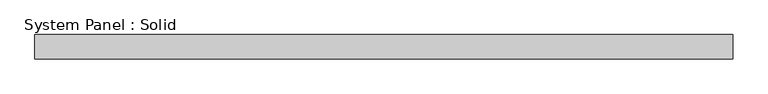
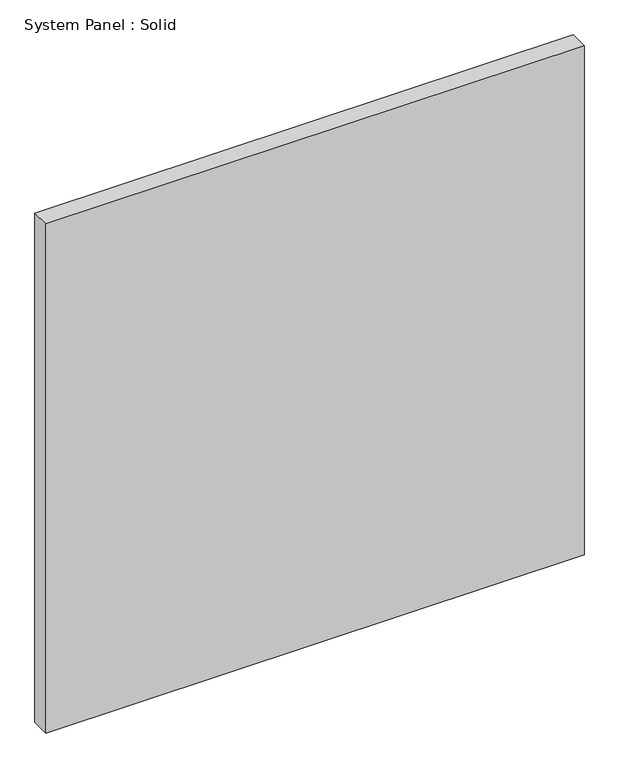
"""IFC4 building model written with IfcOpenShell, lengths in millimetres: plate geometry, System Panel : Solid."""

import ifcopenshell
import ifcopenshell.guid

model = None  # the IFC model being written
_history = None  # IfcOwnerHistory: only IFC2X3 demands one
_inside = {}  # id of a spatial element -> (the spatial element, [elements in it])
_under = {}  # id of a project, library or spatial element -> (it, [spatial elements below it])
_declared = {}  # id of a project -> (the project, [libraries it declares])
_typed = {}  # id of a type object -> (the type object, [elements of that type])
_made_of = {}  # id of a material, layer set ... -> (it, [elements and type objects made of it])


def new_model(schema):
    """Start an empty IFC model of exactly this schema.

    Asked for "IFC4X3", IfcOpenShell would pick the latest addendum, in which some entities
    have other attributes; the version numbers below select the first issue.
    IFC2X3 requires an IfcOwnerHistory on every rooted entity: one is made here for all.
    """
    global model, _history
    if schema == "IFC4X3":
        model = ifcopenshell.file(schema_version=(4, 3, 0, 0))
    else:
        model = ifcopenshell.file(schema=schema)
    _inside.clear()
    _under.clear()
    _declared.clear()
    _typed.clear()
    _made_of.clear()
    _history = None
    if model.schema == "IFC2X3":
        org = make("IfcOrganization", Name="unknown")
        user = make(
            "IfcPersonAndOrganization",
            ThePerson=make("IfcPerson", FamilyName="unknown"),
            TheOrganization=org,
        )
        app = make(
            "IfcApplication",
            ApplicationDeveloper=org,
            Version="unknown",
            ApplicationFullName="unknown",
            ApplicationIdentifier="unknown",
        )
        _history = make(
            "IfcOwnerHistory",
            OwningUser=user,
            OwningApplication=app,
            ChangeAction="ADDED",
            CreationDate=0,
        )
    return model


def make(cls, **values):
    """One entity of the class cls with the attributes given. An attribute that is None is left unset."""
    return model.create_entity(
        cls, **{name: value for name, value in values.items() if value is not None}
    )


def rooted(cls, **values):
    """An entity with a GlobalId (a new one), such as an element, a storey or a relation."""
    return make(cls, GlobalId=ifcopenshell.guid.new(), OwnerHistory=_history, **values)


def si_unit(unit_type, name, prefix=None):
    """IfcSIUnit, for example si_unit("LENGTHUNIT", "METRE", prefix="MILLI")."""
    return make("IfcSIUnit", UnitType=unit_type, Prefix=prefix, Name=name)


def assignment(units):
    """IfcUnitAssignment: the units of a project."""
    return None if units is None else make("IfcUnitAssignment", Units=units)


def point(xyz):
    """IfcCartesianPoint."""
    return None if xyz is None else make("IfcCartesianPoint", Coordinates=xyz)


def direction(xyz):
    """IfcDirection."""
    return None if xyz is None else make("IfcDirection", DirectionRatios=xyz)


def frame(location, z_axis=None, x_axis=None):
    """IfcAxis2Placement3D, a coordinate frame: its origin and axes. An axis left out is left unset."""
    return make(
        "IfcAxis2Placement3D",
        Location=point(location),
        Axis=direction(z_axis),
        RefDirection=direction(x_axis),
    )


def origin():
    """The frame at (0, 0, 0) with its axes left unset."""
    return frame((0.0, 0.0, 0.0))


def origin_with_axes():
    """The frame at (0, 0, 0) with the z axis (0, 0, 1) and the x axis (1, 0, 0) written out."""
    return frame((0.0, 0.0, 0.0), z_axis=(0.0, 0.0, 1.0), x_axis=(1.0, 0.0, 0.0))


def place(relative_to, where):
    """IfcLocalPlacement: puts the frame where relative to a parent placement (None: the world)."""
    return make(
        "IfcLocalPlacement", PlacementRelTo=relative_to, RelativePlacement=where
    )


def context(
    kind, dimensions, precision=None, world=None, true_north=None, identifier=None
):
    """IfcGeometricRepresentationContext, for example the 3D "Model" context."""
    return make(
        "IfcGeometricRepresentationContext",
        ContextIdentifier=identifier,
        ContextType=kind,
        CoordinateSpaceDimension=dimensions,
        Precision=precision,
        WorldCoordinateSystem=world,
        TrueNorth=true_north,
    )


def project(units=None, contexts=None):
    """IfcProject with its units and contexts."""
    return rooted(
        "IfcProject",
        Name="project",
        RepresentationContexts=contexts,
        UnitsInContext=assignment(units),
    )


def spatial(cls, under=None, at=None, **own):
    """A site, building, storey or space (cls), placed at a placement, below another one or the project."""
    s = rooted(cls, ObjectPlacement=at, **own)
    if under is not None:
        _under.setdefault(under.id(), (under, []))[1].append(s)
    return s


def polyline(points):
    """IfcPolyline through the points."""
    return make("IfcPolyline", Points=[point(p) for p in points])


def outline(outer, holes=None, kind="AREA"):
    """IfcArbitraryClosedProfileDef: a profile drawn as a closed curve; with holes, ...WithVoids."""
    if holes is None:
        return make("IfcArbitraryClosedProfileDef", ProfileType=kind, OuterCurve=outer)
    return make(
        "IfcArbitraryProfileDefWithVoids",
        ProfileType=kind,
        OuterCurve=outer,
        InnerCurves=holes,
    )


def extrude(swept, where, along, depth):
    """IfcExtrudedAreaSolid: the profile swept, set in the frame where, extruded along a direction by depth."""
    return make(
        "IfcExtrudedAreaSolid",
        SweptArea=swept,
        Position=where,
        ExtrudedDirection=direction(along),
        Depth=depth,
    )


def shape(context_of_items, identifier, shape_type, items):
    """IfcShapeRepresentation: the items that make up one representation, for example the "Body"."""
    return make(
        "IfcShapeRepresentation",
        ContextOfItems=context_of_items,
        RepresentationIdentifier=identifier,
        RepresentationType=shape_type,
        Items=items,
    )


def source(mapping_origin, context_of_items, identifier, shape_type, items):
    """IfcRepresentationMap: a shape defined once, which mapped items show again and again."""
    return make(
        "IfcRepresentationMap",
        MappingOrigin=mapping_origin,
        MappedRepresentation=shape(context_of_items, identifier, shape_type, items),
    )


def transform(
    local_origin,
    x_axis=None,
    y_axis=None,
    z_axis=None,
    scale=None,
    scale2=None,
    scale3=None,
    uniform=True,
):
    """IfcCartesianTransformationOperator3D, or its non-uniform kind. x_axis, y_axis, z_axis: its Axis1, 2, 3."""
    if uniform:
        return make(
            "IfcCartesianTransformationOperator3D",
            Axis1=direction(x_axis),
            Axis2=direction(y_axis),
            LocalOrigin=point(local_origin),
            Scale=scale,
            Axis3=direction(z_axis),
        )
    return make(
        "IfcCartesianTransformationOperator3DnonUniform",
        Axis1=direction(x_axis),
        Axis2=direction(y_axis),
        LocalOrigin=point(local_origin),
        Scale=scale,
        Axis3=direction(z_axis),
        Scale2=scale2,
        Scale3=scale3,
    )


def mapped(mapping_source, mapping_target):
    """IfcMappedItem: shows the shape of a source again, moved by a transform."""
    return make(
        "IfcMappedItem", MappingSource=mapping_source, MappingTarget=mapping_target
    )


def made_of(thing, what):
    """Note that an element or type object is made of a material, layer set ...; save() writes the relation."""
    if what is not None:
        _made_of.setdefault(what.id(), (what, []))[1].append(thing)
    return thing


def element(
    cls,
    number,
    at=None,
    inside=None,
    cuts=None,
    type_object=None,
    material=None,
    context=None,
    identifier="Body",
    shape_type=None,
    held_by="IfcProductDefinitionShape",
    body=None,
    shapes=None,
    **own,
):
    """One element of the class cls, such as IfcWall. Its Tag is "e" and its number.

    at: its placement. inside: the storey or other place that contains it. cuts: it is an
    opening in that element (IfcRelVoidsElement). A single representation is given by context,
    identifier, shape_type and body (its items); several are given by shapes. held_by: the class
    of the entity that holds the representations. save() writes the other relations.
    """
    e = rooted(cls, Tag="e%d" % number, ObjectPlacement=at, **own)
    if body is not None:
        shapes = [shape(context, identifier, shape_type, body)]
    if shapes is not None:
        e.Representation = make(held_by, Representations=shapes)
    if inside is not None:
        _inside.setdefault(inside.id(), (inside, []))[1].append(e)
    if cuts is not None:
        rooted(
            "IfcRelVoidsElement", RelatingBuildingElement=cuts, RelatedOpeningElement=e
        )
    if type_object is not None:
        _typed.setdefault(type_object.id(), (type_object, []))[1].append(e)
    return made_of(e, material)


def aggregate(whole, parts):
    """IfcRelAggregates: a whole, such as a stair, and the parts it consists of."""
    return rooted("IfcRelAggregates", RelatingObject=whole, RelatedObjects=parts)


def save(model, path):
    """Write the relations noted so far, then the file.

    IfcRelAggregates (storeys below a building ...), IfcRelContainedInSpatialStructure (elements
    in a storey), IfcRelDefinesByType, IfcRelAssociatesMaterial and IfcRelDeclares: one each for
    every whole, place, type object, material and project.
    """
    for whole, parts in _under.values():
        aggregate(whole, parts)
    for where, things in _inside.values():
        rooted(
            "IfcRelContainedInSpatialStructure",
            RelatedElements=things,
            RelatingStructure=where,
        )
    for kind, things in _typed.values():
        rooted("IfcRelDefinesByType", RelatedObjects=things, RelatingType=kind)
    for what, things in _made_of.values():
        rooted("IfcRelAssociatesMaterial", RelatedObjects=things, RelatingMaterial=what)
    for by, libraries in _declared.values():
        rooted("IfcRelDeclares", RelatingContext=by, RelatedDefinitions=libraries)
    model.write(path)


def system_panel_solid_64a149d8(model_context):
    return source(origin(), model_context, "Body", "SweptSolid", [
        extrude(outline(polyline([(500.0, -2.5), (-500.0, -2.5), (-500.0, 32.5), (500.0, 32.5), (500.0, -2.5)])), origin_with_axes(), (0.0, 0.0, 1.0), 1000.0),
    ])


if __name__ == "__main__":
    model = new_model("IFC4")
    model_context = context("Model", 3, world=origin())
    ifc_project = project(units=[si_unit("LENGTHUNIT", "METRE", prefix="MILLI")], contexts=[model_context])
    site = spatial("IfcSite", under=ifc_project)
    building = spatial("IfcBuilding", under=site)
    placement = place(None, origin())
    system_panel_solid_shape = system_panel_solid_64a149d8(model_context)
    element("IfcPlate", 1, ObjectType="System Panel : Solid", at=placement, inside=building, context=model_context, shape_type="MappedRepresentation", body=[
        mapped(system_panel_solid_shape, transform((0.0, 0.0, 0.0), x_axis=(1.0, 0.0, 0.0), y_axis=(0.0, 1.0, 0.0), z_axis=(0.0, 0.0, 1.0))),
    ])
    save(model, "model.ifc")
